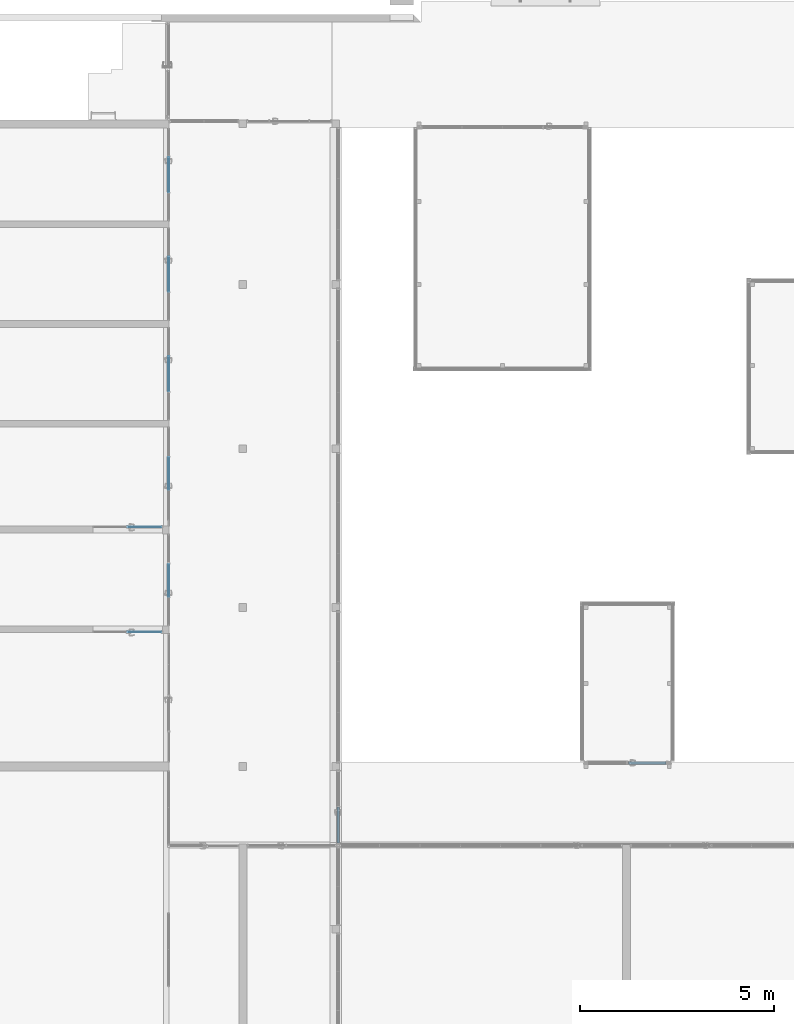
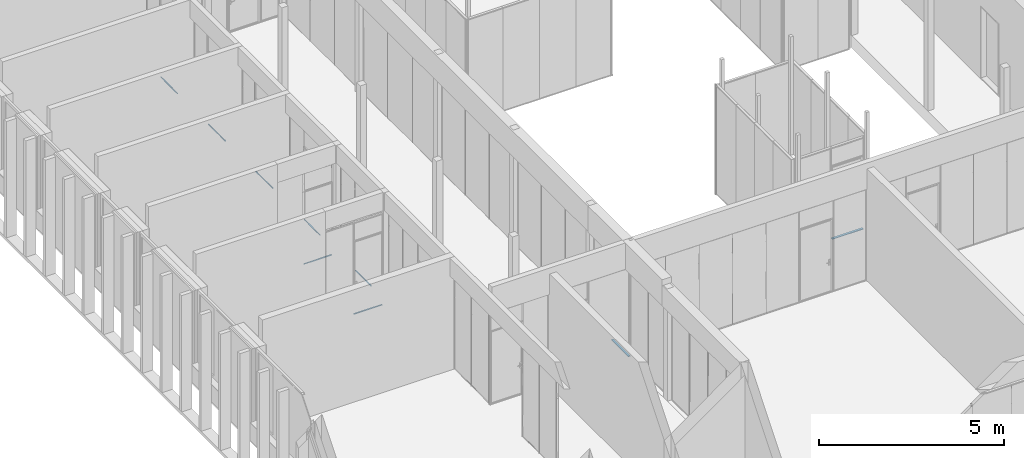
# One storey, part 18 of 387: 9 members, 9 elements without a shape of their own.
"""IFC2X3 building model written with IfcOpenShell, lengths in millimetres."""

from ifc_helpers import new_model, entity, si_unit, converted_unit, derived_unit, money_unit, direction, frame, origin_with_axes, place, context, subcontext, project, spatial, polyline, outline, extrude, material, type_object, element, aggregate, save


model = new_model("IFC2X3")

# Units and contexts
model_context = context("Model", 3, precision=0.01, world=origin_with_axes(), true_north=direction((0.0, 1.0)))
body_context = subcontext(model_context, "Body", "Model", "MODEL_VIEW")
ifc_project = project(units=[si_unit("LENGTHUNIT", "METRE", prefix="MILLI"), si_unit("AREAUNIT", "SQUARE_METRE"), si_unit("VOLUMEUNIT", "CUBIC_METRE"), converted_unit("PLANEANGLEUNIT", "DEGREE", entity("IfcPlaneAngleMeasure", 0.0174532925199), si_unit("PLANEANGLEUNIT", "RADIAN"), dimensions=[0, 0, 0, 0, 0, 0, 0]), si_unit("SOLIDANGLEUNIT", "STERADIAN"), money_unit("EUR"), converted_unit("TIMEUNIT", "Year", entity("IfcTimeMeasure", 31556926.0), si_unit("TIMEUNIT", "SECOND"), dimensions=[0, 0, 1, 0, 0, 0, 0]), si_unit("MASSUNIT", "GRAM", prefix="KILO"), si_unit("THERMODYNAMICTEMPERATUREUNIT", "DEGREE_CELSIUS"), si_unit("LUMINOUSINTENSITYUNIT", "LUMEN"), si_unit("ENERGYUNIT", "JOULE", prefix="MEGA"), derived_unit("THERMALCONDUCTANCEUNIT", [(si_unit("POWERUNIT", "WATT"), 1), (si_unit("LENGTHUNIT", "METRE"), -1), (si_unit("THERMODYNAMICTEMPERATUREUNIT", "KELVIN"), -1)]), derived_unit("SPECIFICHEATCAPACITYUNIT", [(si_unit("ENERGYUNIT", "JOULE"), 1), (si_unit("MASSUNIT", "GRAM", prefix="KILO"), -1), (si_unit("THERMODYNAMICTEMPERATUREUNIT", "KELVIN"), -1)]), derived_unit("MASSDENSITYUNIT", [(si_unit("MASSUNIT", "GRAM", prefix="KILO"), 1), (si_unit("VOLUMEUNIT", "CUBIC_METRE"), -1)])], contexts=[model_context])

# Site, building, storey
site_placement = place(None, origin_with_axes())
site = spatial("IfcSite", under=ifc_project, at=site_placement, Name="Puškini 31, Narva", CompositionType="ELEMENT")
building_placement = place(site_placement, origin_with_axes())
building = spatial("IfcBuilding", under=site, at=building_placement, Name="Narva Riigigümnaasium", CompositionType="ELEMENT")
storey_placement = place(building_placement, frame((0.0, 0.0, 2640.0), z_axis=(0.0, 0.0, 1.0), x_axis=(1.0, 0.0, 0.0)))
storey = spatial("IfcBuildingStorey", under=building, at=storey_placement, Name="2.korrus +2.64", CompositionType="ELEMENT", Elevation=2640.0)

# Curtain wall, member
curtain_wall_type = type_object("IfcCurtainWallType", Name="Curtain Wall Type", PredefinedType="NOTDEFINED")
curtain_wall_1_placement = place(storey_placement, frame((32763.0000013, 173975.000001, -1.33722362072e-05), z_axis=(0.0, 0.0, 1.0), x_axis=(1.0, 0.0, 0.0)))
curtain_wall_1 = element("IfcCurtainWall", 1, at=curtain_wall_1_placement, inside=storey, type_object=curtain_wall_type, Name="G-SKLF-14")
ifc_material_1 = material(Name="ET-04_Alumiinium")
member_type_1 = type_object("IfcMemberType", Name="20 x 74", PredefinedType="MULLION")
member_1_placement = place(curtain_wall_1_placement, frame((-1.24700250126e-08, -475.0, 0.0), z_axis=(0.0, 1.0, 0.0), x_axis=(0.0, 0.0, 1.0)))
member_1 = element("IfcMember", 2, at=member_1_placement, type_object=member_type_1, material=ifc_material_1, Name="G-SKLF-14-raam", ObjectType="MULLION", context=body_context, shape_type="SweptSolid", body=[
    extrude(outline(polyline([(36.9999999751, -20.0), (36.9999999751, 0.0), (-37.0000000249, 0.0), (-37.0000000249, -20.0), (36.9999999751, -20.0)])), frame((0.0, 0.0, 30.0000193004), z_axis=(0.0, 0.0, 1.0), x_axis=(0.0, 1.0, 0.0)), (0.0, 0.0, 1.0), 919.999980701),
])
aggregate(curtain_wall_1, [member_1])

curtain_wall_2_placement = place(storey_placement, frame((41281.9672345, 175592.500019, -3.22566622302e-05), z_axis=(0.0, 0.0, 1.0), x_axis=(1.0, 0.0, 0.0)))
curtain_wall_2 = element("IfcCurtainWall", 3, at=curtain_wall_2_placement, inside=storey, type_object=curtain_wall_type, Name="G-SKLF-38")
member_2_placement = place(curtain_wall_2_placement, frame((-1032.11609906, 1.84741111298e-09, 0.0), z_axis=(1.0, 0.0, 0.0), x_axis=(0.0, 0.0, 1.0)))
member_2 = element("IfcMember", 4, at=member_2_placement, type_object=member_type_1, material=ifc_material_1, Name="G-SKLF-92-raam", ObjectType="MULLION", context=body_context, shape_type="SweptSolid", body=[
    extrude(outline(polyline([(-37.0, -20.0), (37.0, -20.0), (37.0, 0.0), (-37.0, 0.0), (-37.0, -20.0)])), frame((0.0, 0.0, 0.0), z_axis=(0.0, 0.0, 1.0), x_axis=(0.0, 1.0, 0.0)), (0.0, 0.0, 1.0), 969.999986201),
])
aggregate(curtain_wall_2, [member_2])

curtain_wall_3_placement = place(storey_placement, frame((28390.0000001, 190769.973479, -0.000112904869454), z_axis=(0.0, 0.0, 1.0), x_axis=(1.0, 0.0, 0.0)))
curtain_wall_3 = element("IfcCurtainWall", 5, at=curtain_wall_3_placement, inside=storey, type_object=curtain_wall_type, Name="G-SKLF-22")
member_type_2 = type_object("IfcMemberType", Name="20 x 20", PredefinedType="MULLION")
member_3_placement = place(curtain_wall_3_placement, frame((0.0, -450.0, 0.0), z_axis=(0.0, 1.0, 0.0), x_axis=(0.0, 0.0, 1.0)))
member_3 = element("IfcMember", 6, at=member_3_placement, type_object=member_type_2, material=ifc_material_1, Name="G-SKLF-23-raam", ObjectType="MULLION", context=body_context, shape_type="SweptSolid", body=[
    extrude(outline(polyline([(10.0, -20.0), (10.0, 0.0), (-10.0, 0.0), (-10.0, -20.0), (10.0, -20.0)])), frame((0.0, 0.0, 0.0), z_axis=(0.0, 0.0, 1.0), x_axis=(0.0, 1.0, 0.0)), (0.0, 0.0, 1.0), 900.0),
])
aggregate(curtain_wall_3, [member_3])

curtain_wall_4_placement = place(storey_placement, frame((26984.7499996, 181679.973357, -1.33722362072e-05), z_axis=(0.0, 0.0, 1.0), x_axis=(1.0, 0.0, 0.0)))
curtain_wall_4 = element("IfcCurtainWall", 7, at=curtain_wall_4_placement, inside=storey, type_object=curtain_wall_type, Name="G-SKLF-18")
member_4_placement = place(curtain_wall_4_placement, frame((1245.25, 3.52429196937e-08, 0.0), z_axis=(-1.0, 0.0, 0.0), x_axis=(0.0, 0.0, 1.0)))
member_4 = element("IfcMember", 8, at=member_4_placement, type_object=member_type_2, material=ifc_material_1, Name="G-SKLF-18-raam", ObjectType="MULLION", context=body_context, shape_type="SweptSolid", body=[
    extrude(outline(polyline([(9.99999999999, -20.0), (9.99999999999, 0.0), (-9.99999999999, 0.0), (-9.99999999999, -20.0), (9.99999999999, -20.0)])), frame((0.0, 0.0, 32.0000000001), z_axis=(0.0, 0.0, 1.0), x_axis=(0.0, 1.0, 0.0)), (0.0, 0.0, 1.0), 868.0),
])
aggregate(curtain_wall_4, [member_4])

curtain_wall_5_placement = place(storey_placement, frame((26985.0, 178969.972032, -1.33722362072e-05), z_axis=(0.0, 0.0, 1.0), x_axis=(1.0, 0.0, 0.0)))
curtain_wall_5 = element("IfcCurtainWall", 9, at=curtain_wall_5_placement, inside=storey, type_object=curtain_wall_type, Name="G-SKLF-16")
ifc_material_2 = material(Name="Alumiiniumprofiil")
member_5_placement = place(curtain_wall_5_placement, frame((1245.0, -3.52713414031e-08, 0.0), z_axis=(-1.0, 0.0, 0.0), x_axis=(0.0, 0.0, 1.0)))
member_5 = element("IfcMember", 10, at=member_5_placement, type_object=member_type_2, material=ifc_material_2, Name="G-SKLF-16-raam", ObjectType="MULLION", context=body_context, shape_type="SweptSolid", body=[
    extrude(outline(polyline([(-9.99999999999, -20.0), (9.99999999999, -20.0), (9.99999999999, 0.0), (-9.99999999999, 0.0), (-9.99999999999, -20.0)])), frame((0.0, 0.0, 32.0000000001), z_axis=(0.0, 0.0, 1.0), x_axis=(0.0, 1.0, 0.0)), (0.0, 0.0, 1.0), 868.0),
])
aggregate(curtain_wall_5, [member_5])

curtain_wall_6_placement = place(storey_placement, frame((28390.0000001, 188199.946958, -0.000112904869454), z_axis=(0.0, 0.0, 1.0), x_axis=(1.0, 0.0, 0.0)))
curtain_wall_6 = element("IfcCurtainWall", 11, at=curtain_wall_6_placement, inside=storey, type_object=curtain_wall_type, Name="G-SKLF-21")
member_6_placement = place(curtain_wall_6_placement, frame((0.0, -450.0, 0.0), z_axis=(0.0, 1.0, 0.0), x_axis=(0.0, 0.0, 1.0)))
member_6 = element("IfcMember", 12, at=member_6_placement, type_object=member_type_2, material=ifc_material_1, Name="G-SKLF-22-raam", ObjectType="MULLION", context=body_context, shape_type="SweptSolid", body=[
    extrude(outline(polyline([(10.0, -20.0), (10.0, 0.0), (-10.0, 0.0), (-10.0, -20.0), (10.0, -20.0)])), frame((0.0, 0.0, 0.0), z_axis=(0.0, 0.0, 1.0), x_axis=(0.0, 1.0, 0.0)), (0.0, 0.0, 1.0), 900.0),
])
aggregate(curtain_wall_6, [member_6])

curtain_wall_7_placement = place(storey_placement, frame((28390.0000001, 185629.946958, -0.000112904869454), z_axis=(0.0, 0.0, 1.0), x_axis=(1.0, 0.0, 0.0)))
curtain_wall_7 = element("IfcCurtainWall", 13, at=curtain_wall_7_placement, inside=storey, type_object=curtain_wall_type, Name="G-SKLF-20")
member_7_placement = place(curtain_wall_7_placement, frame((0.0, -450.0, 0.0), z_axis=(0.0, 1.0, 0.0), x_axis=(0.0, 0.0, 1.0)))
member_7 = element("IfcMember", 14, at=member_7_placement, type_object=member_type_2, material=ifc_material_1, Name="G-SKLF-42-raam", ObjectType="MULLION", context=body_context, shape_type="SweptSolid", body=[
    extrude(outline(polyline([(10.0, -20.0), (10.0, 0.0), (-10.0, 0.0), (-10.0, -20.0), (10.0, -20.0)])), frame((0.0, 0.0, 0.0), z_axis=(0.0, 0.0, 1.0), x_axis=(0.0, 1.0, 0.0)), (0.0, 0.0, 1.0), 900.0),
])
aggregate(curtain_wall_7, [member_7])

curtain_wall_8_placement = place(storey_placement, frame((28390.0000001, 183059.973479, -0.000112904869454), z_axis=(0.0, 0.0, 1.0), x_axis=(1.0, 0.0, 0.0)))
curtain_wall_8 = element("IfcCurtainWall", 15, at=curtain_wall_8_placement, inside=storey, type_object=curtain_wall_type, Name="G-SKLF-19")
member_8_placement = place(curtain_wall_8_placement, frame((0.0, 450.0, 0.0), z_axis=(0.0, -1.0, 0.0), x_axis=(0.0, 0.0, 1.0)))
member_8 = element("IfcMember", 16, at=member_8_placement, type_object=member_type_2, material=ifc_material_1, Name="G-SKLF-54-raam", ObjectType="MULLION", context=body_context, shape_type="SweptSolid", body=[
    extrude(outline(polyline([(-10.0, -20.0), (10.0, -20.0), (10.0, 0.0), (-10.0, 0.0), (-10.0, -20.0)])), frame((0.0, 0.0, 32.0000000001), z_axis=(0.0, 0.0, 1.0), x_axis=(0.0, 1.0, 0.0)), (0.0, 0.0, 1.0), 836.0),
])
aggregate(curtain_wall_8, [member_8])

curtain_wall_9_placement = place(storey_placement, frame((28390.0000001, 180299.973357, -0.00013048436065), z_axis=(0.0, 0.0, 1.0), x_axis=(1.0, 0.0, 0.0)))
curtain_wall_9 = element("IfcCurtainWall", 17, at=curtain_wall_9_placement, inside=storey, type_object=curtain_wall_type, Name="G-SKLF-17")
member_9_placement = place(curtain_wall_9_placement, frame((0.0, 450.0, 0.0), z_axis=(0.0, -1.0, 0.0), x_axis=(0.0, 0.0, 1.0)))
member_9 = element("IfcMember", 18, at=member_9_placement, type_object=member_type_2, material=ifc_material_1, Name="G-SKLF-65-raam", ObjectType="MULLION", context=body_context, shape_type="SweptSolid", body=[
    extrude(outline(polyline([(-10.0, -20.0), (10.0, -20.0), (10.0, 0.0), (-10.0, 0.0), (-10.0, -20.0)])), frame((0.0, 0.0, 32.0000000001), z_axis=(0.0, 0.0, 1.0), x_axis=(0.0, 1.0, 0.0)), (0.0, 0.0, 1.0), 836.0),
])
aggregate(curtain_wall_9, [member_9])

save(model, "model.ifc")
